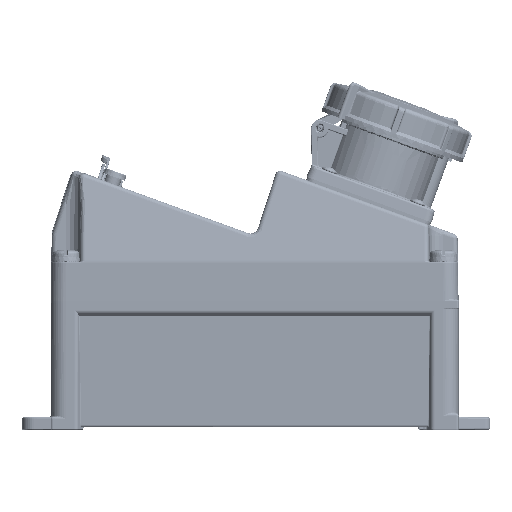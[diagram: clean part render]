
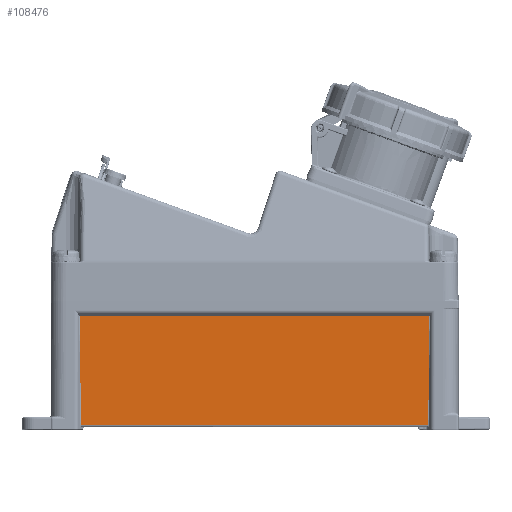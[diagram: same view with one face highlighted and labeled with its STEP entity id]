
A CAD part, left-side view. The second image highlights one B-rep face of the part: STEP entity #108476.
In plain terms, the highlighted planar face has unit normal (-1, 0, -0.018).
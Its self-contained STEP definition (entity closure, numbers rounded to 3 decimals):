
#17128=CARTESIAN_POINT('',(3.779,20.212,2.983));
#17129=CARTESIAN_POINT('',(3.779,20.204,2.983));
#17130=CARTESIAN_POINT('',(3.779,20.189,2.982));
#17131=CARTESIAN_POINT('',(3.779,20.167,2.982));
#17132=CARTESIAN_POINT('',(3.779,20.153,2.982));
#17133=CARTESIAN_POINT('',(3.779,20.145,2.981));
#17147=DIRECTION('',(0.,-1.,0.));
#17148=VECTOR('',#17147,220.443);
#17149=CARTESIAN_POINT('',(3.779,240.655,2.983));
#17150=LINE('40221',#17149,#17148);
#17250=CARTESIAN_POINT('',(3.779,20.145,2.981));
#17251=CARTESIAN_POINT('',(3.779,20.05,2.978));
#17252=CARTESIAN_POINT('',(3.779,19.864,2.959));
#17253=CARTESIAN_POINT('',(3.78,19.592,2.89));
#17254=CARTESIAN_POINT('',(3.782,19.427,2.822));
#17255=CARTESIAN_POINT('',(3.782,19.347,2.782));
#17257=CARTESIAN_POINT('',(3.782,19.347,2.782));
#17265=DIRECTION('',(-0.017,0.01,1.));
#17266=VECTOR('',#17265,69.263);
#17267=CARTESIAN_POINT('',(3.779,240.655,2.983));
#17268=LINE('40229',#17267,#17266);
#17269=DIRECTION('',(0.017,0.01,-1.));
#17270=VECTOR('',#17269,69.464);
#17271=CARTESIAN_POINT('',(2.57,18.647,72.232));
#17272=LINE('40243',#17271,#17270);
#17273=DIRECTION('',(0.,1.,0.));
#17274=VECTOR('',#17273,222.705);
#17275=CARTESIAN_POINT('',(2.57,18.647,72.232));
#17276=LINE('40242',#17275,#17274);
#17277=CARTESIAN_POINT('',(2.57,241.353,72.232));
#65456=CARTESIAN_POINT('',(3.779,20.212,2.983));
#65457=VERTEX_POINT('',#65456);
#65458=VERTEX_POINT('',#17133);
#65460=CARTESIAN_POINT('',(3.779,240.655,2.983));
#65461=VERTEX_POINT('',#65460);
#65467=VERTEX_POINT('',#17277);
#65476=VERTEX_POINT('',#17257);
#65477=CARTESIAN_POINT('',(2.57,18.647,72.232));
#65478=VERTEX_POINT('',#65477);
#108461=CARTESIAN_POINT('',(2.566,243.125,72.434));
#108462=DIRECTION('',(1.,0.,0.017));
#108463=DIRECTION('',(0.017,0.,-1.));
#108464=AXIS2_PLACEMENT_3D('',#108461,#108462,#108463);
#108465=PLANE('49359',#108464);
#108466=ORIENTED_EDGE('40241',*,*,#108448,.F.);
#108467=ORIENTED_EDGE('40217',*,*,#108142,.F.);
#108468=ORIENTED_EDGE('40221',*,*,#108166,.F.);
#108469=ORIENTED_EDGE('40229',*,*,#108219,.T.);
#108471=ORIENTED_EDGE('40242',*,*,#108470,.F.);
#108473=ORIENTED_EDGE('40243',*,*,#108472,.T.);
#108474=EDGE_LOOP('49359',(#108466,#108467,#108468,#108469,#108471,#108473));
#108475=FACE_OUTER_BOUND('49359',#108474,.F.);
#17134=B_SPLINE_CURVE_WITH_KNOTS('40217',3,(#17128,#17129,#17130,#17131,#17132,
#17133),.UNSPECIFIED.,.F.,.F.,(4,1,1,4),(0.,0.333,
0.667,1.),.UNSPECIFIED.);
#17256=B_SPLINE_CURVE_WITH_KNOTS('40241',3,(#17250,#17251,#17252,#17253,#17254,
#17255),.UNSPECIFIED.,.F.,.F.,(4,1,1,4),(0.,0.333,
0.667,1.),.UNSPECIFIED.);
#108142=EDGE_CURVE('40217',#65457,#65458,#17134,.T.);
#108166=EDGE_CURVE('40221',#65461,#65457,#17150,.T.);
#108219=EDGE_CURVE('40229',#65461,#65467,#17268,.T.);
#108448=EDGE_CURVE('40241',#65458,#65476,#17256,.T.);
#108470=EDGE_CURVE('40242',#65478,#65467,#17276,.T.);
#108472=EDGE_CURVE('40243',#65478,#65476,#17272,.T.);
#108476=ADVANCED_FACE('49359',(#108475),#108465,.F.);
